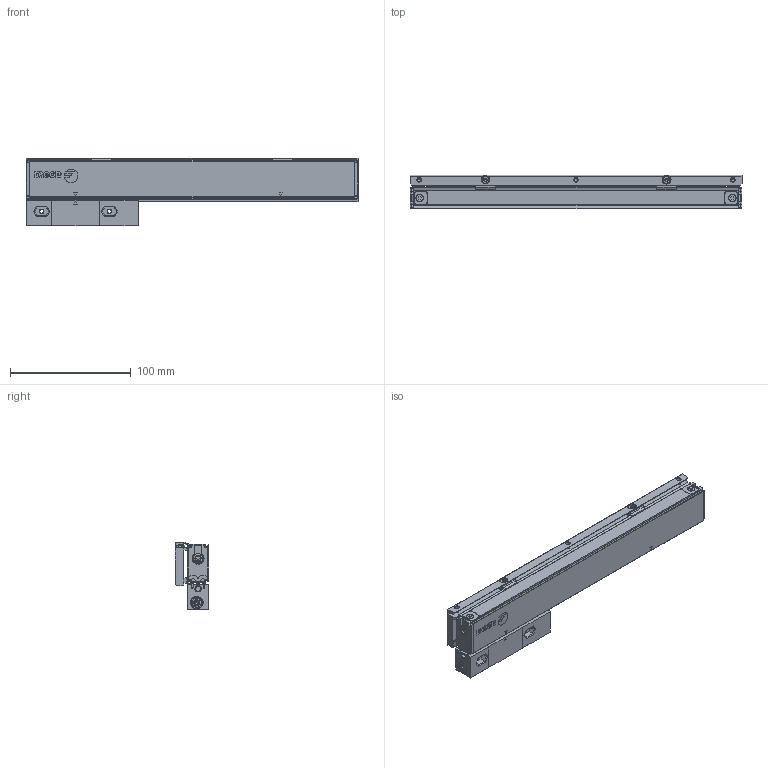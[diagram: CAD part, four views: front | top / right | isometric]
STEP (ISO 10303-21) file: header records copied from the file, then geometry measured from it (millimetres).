
FILE_DESCRIPTION(('Creo Elements/Direct Modeling STEP Export'),'2;1');
FILE_NAME('Regla SV2-170-T-V01A.stp','2022-11-30T 8:31:37',(''),(''),'Creo Elements/Direct Modeling STEP processor for AP214 (Solid Model)','Creo Elements/Direct Modeling 20.4A 18-Oct-2021 (C) Parametric Technology GmbH','');
FILE_SCHEMA(('AUTOMOTIVE_DESIGN { 1 0 10303 214 1 1 1 1 }'));
Length unit declared in the file: millimetre
Products named in the file (4): REGLA_SV2-170-T; SOPORTE_SV3-170; CABEZA_ROSCADA_REGLA_SV2-T; REGLA_SV2-170-T-V01A
Assembly tree (3 placements, depth 2):
  REGLA_SV2-170-T-V01A
    CABEZA_ROSCADA_REGLA_SV2-T
    SOPORTE_SV3-170
    REGLA_SV2-170-T
Bounding box: 275 x 28 x 56.2 mm (x, y, z)
Volume: 235208.5 mm3; surface area: 89930.2 mm2
Topology: 3 solids, 25 shells, 1459 faces, 3979 edges, 2585 vertices
Faces by surface type: plane 666, cylinder 530, cone 172, bspline 74, torus 10, sphere 4, extrusion 3
Entity records: 54527 total; most frequent: CARTESIAN_POINT 14530, ORIENTED_EDGE 7914, DIRECTION 6631, EDGE_CURVE 3957, VERTEX_POINT 2585, AXIS2_PLACEMENT_3D 2225, VECTOR 2181, LINE 2178
